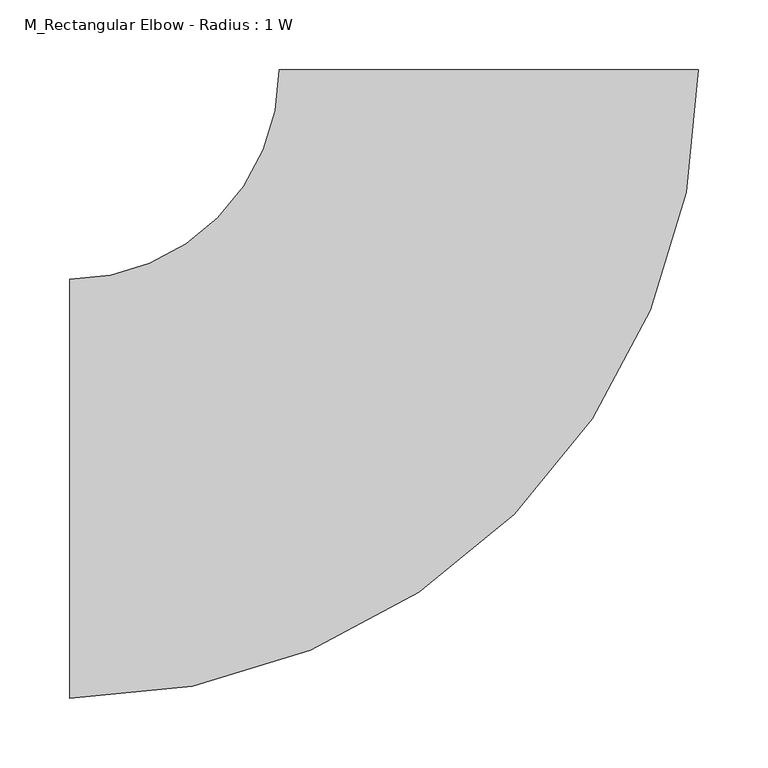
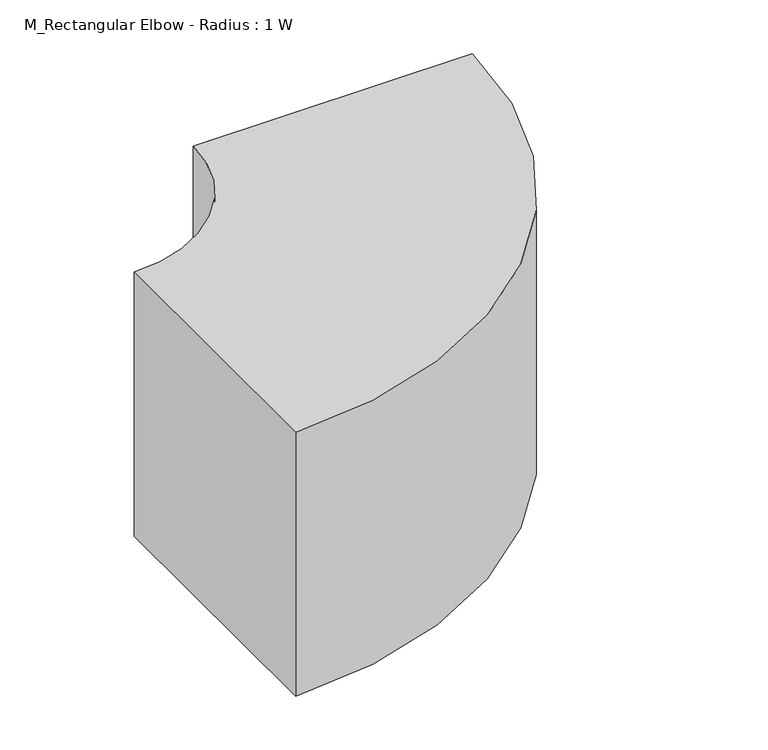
"""IFC4 building model written with IfcOpenShell, lengths in millimetres: duct fitting geometry, M_Rectangular Elbow - Radius : 1 W."""

from ifc_helpers import new_model, si_unit, point, frame, frame_2d, origin, place, context, project, spatial, polyline, circle_curve, trimmed, segment, composite_curve, outline, extrude, source, transform, mapped, element, save


def m_rectangular_elbow_radius_1_w_618da153(model_context):
    return source(origin(), model_context, "Body", "SweptSolid", [
        extrude(outline(composite_curve([segment(trimmed(circle_curve(frame_2d((-300.0, 300.0)), 450.0), [point((150.0, 300.0))], [point((-300.0, -150.0))], False, "CARTESIAN"), True, "CONTINUOUS"), segment(polyline([(-300.0, -150.0), (-300.0, 150.0)]), True, "CONTINUOUS"), segment(trimmed(circle_curve(frame_2d((-300.0, 300.0)), 150.0), [point((-300.0, 150.0))], [point((-150.0, 300.0))], True, "CARTESIAN"), True, "CONTINUOUS"), segment(polyline([(-150.0, 300.0), (150.0, 300.0)]), True, "CONTINUOUS")], self_intersect=False)), frame((0.0, 0.0, -150.0), z_axis=(0.0, 0.0, 1.0), x_axis=(1.0, 0.0, 0.0)), (0.0, 0.0, 1.0), 300.0),
    ])


if __name__ == "__main__":
    model = new_model("IFC4")
    model_context = context("Model", 3, world=origin())
    ifc_project = project(units=[si_unit("LENGTHUNIT", "METRE", prefix="MILLI")], contexts=[model_context])
    site = spatial("IfcSite", under=ifc_project)
    building = spatial("IfcBuilding", under=site)
    placement = place(None, origin())
    m_rectangular_elbow_radius_1_w_shape = m_rectangular_elbow_radius_1_w_618da153(model_context)
    element("IfcDuctFitting", 1, ObjectType="M_Rectangular Elbow - Radius : 1 W", at=placement, inside=building, context=model_context, shape_type="MappedRepresentation", body=[
        mapped(m_rectangular_elbow_radius_1_w_shape, transform((0.0, 0.0, 0.0), x_axis=(1.0, 0.0, 0.0), y_axis=(0.0, 1.0, 0.0), z_axis=(0.0, 0.0, 1.0))),
    ])
    save(model, "model.ifc")
